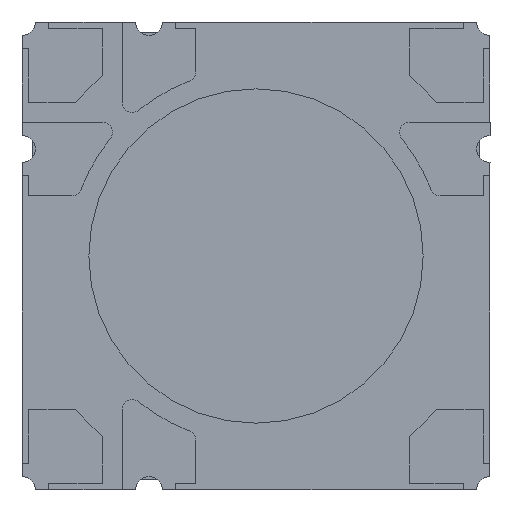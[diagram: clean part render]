
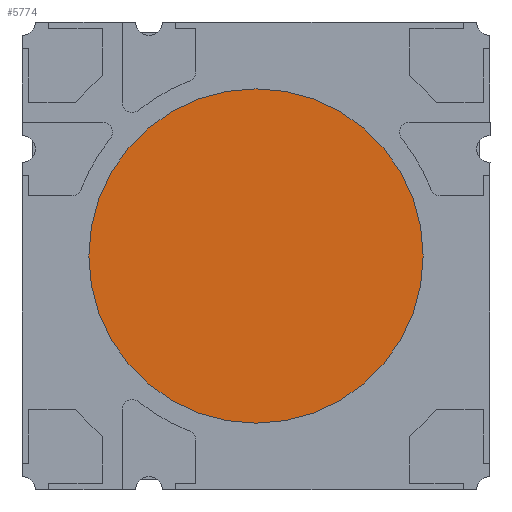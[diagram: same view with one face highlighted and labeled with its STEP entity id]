
A CAD part, front view. The second image highlights one B-rep face of the part: STEP entity #5774.
In plain terms, the highlighted planar face has unit normal (0, -1, 0) as drawn and (0, 0, -1) by its records, which use the part's own axes.
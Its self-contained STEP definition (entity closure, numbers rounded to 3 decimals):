
#33 = AXIS2_PLACEMENT_3D ( 'NONE', #3703, #8069, #2899 ) ;
#1580 = PLANE ( 'NONE',  #4244 ) ;
#2899 = DIRECTION ( 'NONE',  ( -1., 0., 0. ) ) ;
#3221 = AXIS2_PLACEMENT_3D ( 'NONE', #4149, #4514, #7707 ) ;
#3703 = CARTESIAN_POINT ( 'NONE',  ( 0., 0., -0.001 ) ) ;
#4149 = CARTESIAN_POINT ( 'NONE',  ( 0., 0., -0.001 ) ) ;
#4244 = AXIS2_PLACEMENT_3D ( 'NONE', #7503, #7028, #7955 ) ;
#4514 = DIRECTION ( 'NONE',  ( 0., 0., -1. ) ) ;
#5190 = CARTESIAN_POINT ( 'NONE',  ( 2.5, 0., -0.001 ) ) ;
#5322 = VERTEX_POINT ( 'NONE', #5190 ) ;
#5774 = ADVANCED_FACE ( 'NONE', ( #8169 ), #1580, .T. ) ;
#5995 = EDGE_CURVE ( 'NONE', #5322, #7539, #7452, .T. ) ;
#7028 = DIRECTION ( 'NONE',  ( 0., 0., -1. ) ) ;
#7153 = CARTESIAN_POINT ( 'NONE',  ( -2.5, 0., -0.001 ) ) ;
#7307 = EDGE_LOOP ( 'NONE', ( #9309, #9454 ) ) ;
#7452 = CIRCLE ( 'NONE', #3221, 2.5 ) ;
#7503 = CARTESIAN_POINT ( 'NONE',  ( 0., 0., -0.001 ) ) ;
#7539 = VERTEX_POINT ( 'NONE', #7153 ) ;
#7707 = DIRECTION ( 'NONE',  ( -1., 0., 0. ) ) ;
#7955 = DIRECTION ( 'NONE',  ( -1., 0., 0. ) ) ;
#8069 = DIRECTION ( 'NONE',  ( 0., 0., -1. ) ) ;
#8169 = FACE_OUTER_BOUND ( 'NONE', #7307, .T. ) ;
#8662 = CIRCLE ( 'NONE', #33, 2.5 ) ;
#9309 = ORIENTED_EDGE ( 'NONE', *, *, #5995, .T. ) ;
#9454 = ORIENTED_EDGE ( 'NONE', *, *, #9581, .T. ) ;
#9581 = EDGE_CURVE ( 'NONE', #7539, #5322, #8662, .T. ) ;
